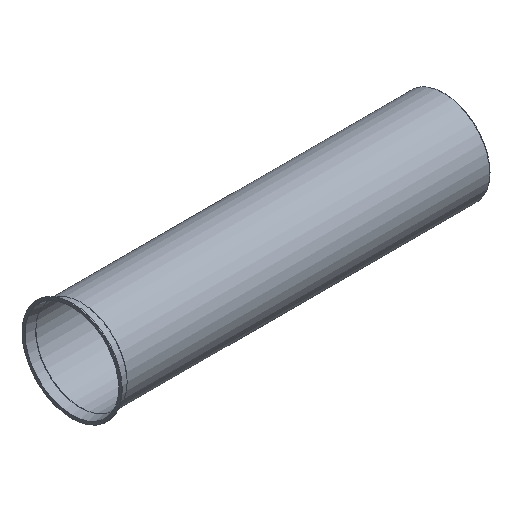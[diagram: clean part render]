
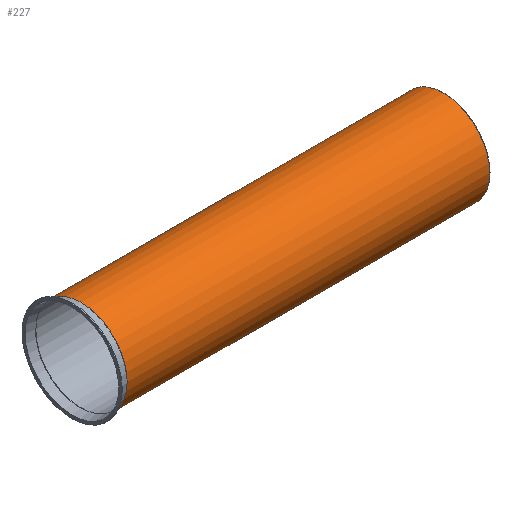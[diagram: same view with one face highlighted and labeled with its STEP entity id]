
A CAD part, isometric view. The second image highlights one B-rep face of the part: STEP entity #227.
In plain terms, the highlighted cylindrical face has radius 122.5 mm (diameter 245 mm), a full revolution.
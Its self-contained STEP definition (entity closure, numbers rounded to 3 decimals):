
#132=CARTESIAN_POINT('',(-2.081,46.834,0.0));
#133=VERTEX_POINT('',#132);
#134=CARTESIAN_POINT('',(-2.081,169.334,0.0));
#135=DIRECTION('',(-1.0,0.0,0.0));
#136=DIRECTION('',(0.0,-1.0,0.0));
#137=AXIS2_PLACEMENT_3D('',#134,#135,#136);
#138=CIRCLE('',#137,122.5);
#139=EDGE_CURVE('',#133,#133,#138,.T.);
#201=CARTESIAN_POINT('',(963.919,46.834,0.0));
#202=VERTEX_POINT('',#201);
#203=CARTESIAN_POINT('',(963.919,169.334,0.0));
#204=DIRECTION('',(-1.0,0.0,0.0));
#205=DIRECTION('',(0.0,-1.0,0.0));
#206=AXIS2_PLACEMENT_3D('',#203,#204,#205);
#207=CIRCLE('',#206,122.5);
#208=EDGE_CURVE('',#202,#202,#207,.T.);
#216=CARTESIAN_POINT('',(480.919,169.334,0.0));
#217=DIRECTION('',(-1.0,0.,0.0));
#218=DIRECTION('',(0.0,-1.0,0.0));
#219=AXIS2_PLACEMENT_3D('',#216,#217,#218);
#220=CYLINDRICAL_SURFACE('',#219,122.5);
#221=ORIENTED_EDGE('',*,*,#139,.F.);
#222=EDGE_LOOP('',(#221));
#223=FACE_OUTER_BOUND('',#222,.T.);
#224=ORIENTED_EDGE('',*,*,#208,.T.);
#225=EDGE_LOOP('',(#224));
#226=FACE_BOUND('',#225,.T.);
#227=ADVANCED_FACE('',(#223,#226),#220,.T.);
